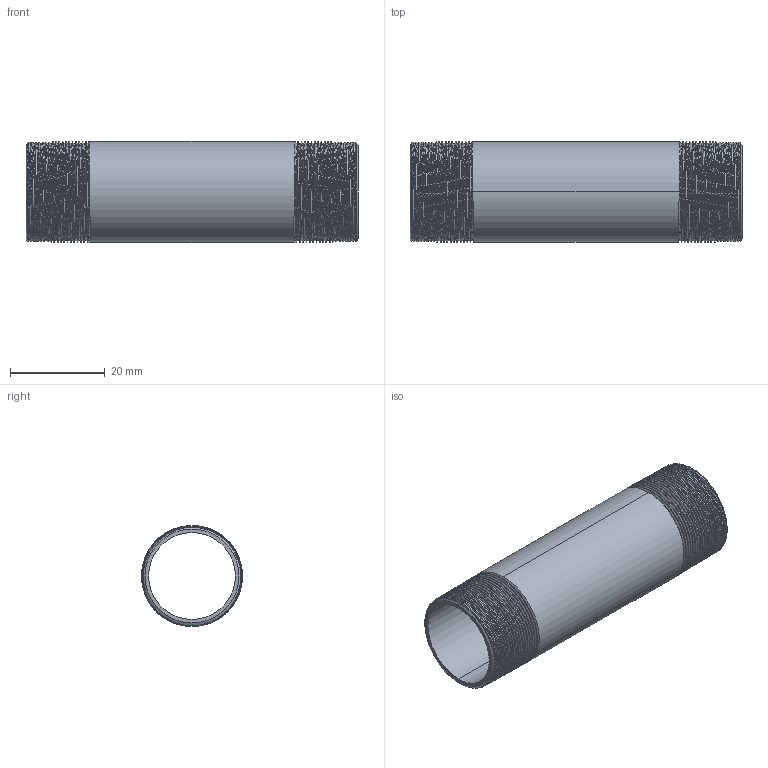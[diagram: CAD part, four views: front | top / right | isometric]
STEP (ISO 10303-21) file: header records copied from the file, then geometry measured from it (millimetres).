
FILE_DESCRIPTION (( 'STEP AP203' ), '1' );
FILE_NAME ('3D_R210_1-2x70_17185695.STEP', '2024-08-16T11:10:26', ( '' ), ( '' ), 'SwSTEP 2.0', 'SolidWorks 2024', '' );
FILE_SCHEMA (( 'CONFIG_CONTROL_DESIGN' ));
Length unit declared in the file: millimetre
Products named in the file (1): 3D_R210_1-2x70_17185695
Bounding box: 70 x 21.27 x 21.3 mm (x, y, z)
Volume: 6140.6 mm3; surface area: 9616.7 mm2
Topology: 1 solids, 1 shells, 94 faces, 268 edges, 176 vertices
Faces by surface type: cone 80, bspline 6, cylinder 4, plane 4
Entity records: 14219 total; most frequent: CARTESIAN_POINT 12053, ORIENTED_EDGE 536, DIRECTION 286, EDGE_CURVE 268, VERTEX_POINT 176, B_SPLINE_CURVE_WITH_KNOTS 164, AXIS2_PLACEMENT_3D 101, EDGE_LOOP 96
